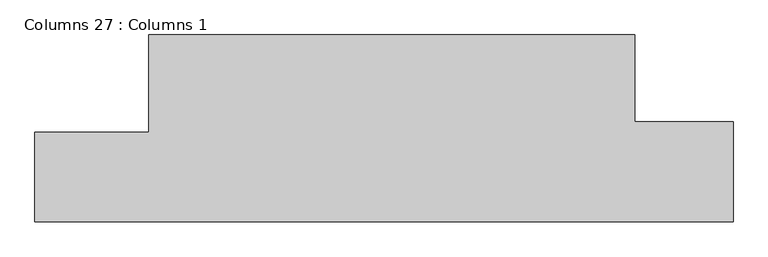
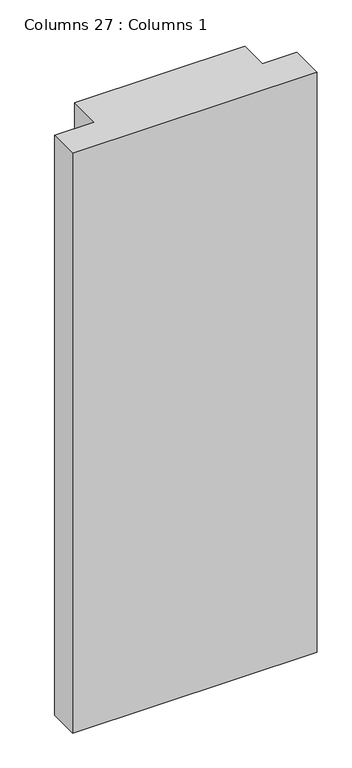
"""IFC4 building model written with IfcOpenShell, lengths in millimetres: column geometry, Columns 27 : Columns 1."""

from ifc_helpers import new_model, si_unit, origin, origin_with_axes, place, context, project, spatial, polyline, outline, extrude, source, transform, mapped, element, save


def columns_27_columns_1_d9d9b695(model_context):
    return source(origin(), model_context, "Body", "SweptSolid", [
        extrude(outline(polyline([(-38061.8794118, 117135.7591334), (-38061.8794118, 117323.3354847), (-37823.6137, 117323.3354847), (-37823.6137, 117526.5354847), (-36807.6137, 117526.5354847), (-36807.6137, 117345.3091334), (-36601.3794118, 117345.3091334), (-36601.3794118, 117135.7591334), (-38061.8794118, 117135.7591334)])), origin_with_axes(), (0.0, 0.0, 1.0), 3657.6),
    ])


if __name__ == "__main__":
    model = new_model("IFC4")
    model_context = context("Model", 3, world=origin())
    ifc_project = project(units=[si_unit("LENGTHUNIT", "METRE", prefix="MILLI")], contexts=[model_context])
    site = spatial("IfcSite", under=ifc_project)
    building = spatial("IfcBuilding", under=site)
    placement = place(None, origin())
    columns_27_columns_1_shape = columns_27_columns_1_d9d9b695(model_context)
    element("IfcColumn", 1, ObjectType="Columns 27 : Columns 1", at=placement, inside=building, context=model_context, shape_type="MappedRepresentation", body=[
        mapped(columns_27_columns_1_shape, transform((0.0, 0.0, 0.0), x_axis=(1.0, 0.0, 0.0), y_axis=(0.0, 1.0, 0.0), z_axis=(0.0, 0.0, 1.0))),
    ])
    save(model, "model.ifc")
